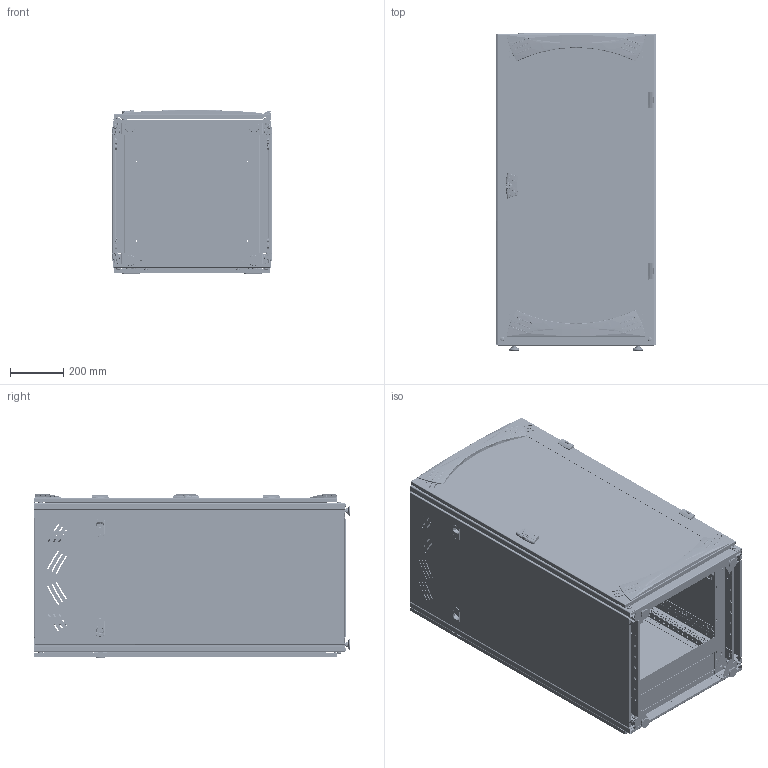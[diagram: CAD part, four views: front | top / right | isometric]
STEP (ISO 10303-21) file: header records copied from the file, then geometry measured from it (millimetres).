
FILE_DESCRIPTION((''),'2;1');
FILE_NAME('ENN3668AS_ASM','2007-09-27T',('ay11870'),('Schneider-Electric'),'PRO/ENGINEER BY PARAMETRIC TECHNOLOGY CORPORATION, 2005030','PRO/ENGINEER BY PARAMETRIC TECHNOLOGY CORPORATION, 2005030','');
FILE_SCHEMA(('CONFIG_CONTROL_DESIGN'));
Length unit declared in the file: millimetre
Products named in the file (38): ENN2684AS_66; ENN2715AS; ENN2683AS; ENN2684AS_66_ASM; ENN2682AS_24U; ENN2686AS_66; ENN2686AS_66_ASM; ENNA01562; ENN2692AS_600; ENN0379A_66; ENN2690AS_24U; ENN04430673; ENN2911AS; ENN2912AS; ENNA01571; ENN2808AS; ENN2833AS_2466_ASM; ENN2755AS; ENN2698AS_246; ENN04432992; ENN2698AS_246_ASM; ENN2807AS_246; ENN2807AS_246_ASM; ENN2948AS; LOQUET-1; ENN5120804607; ENN2717AS; ENN2720AS_24U6; ENN2720AS_24U6_ASM; ENN2723AS_24U; ENN2716AS; ENN2718AS; ENN5120803260; CAME; RONDELLE_EMKA; ENNA02208; ENN2722AS_ASM; ENN3668AS_ASM
Assembly tree (117 placements, depth 4):
  ENN3668AS_ASM
    ENN2833AS_2466_ASM
      ENN2684AS_66_ASM
        ENN2684AS_66
        ENN2715AS  x2
        ENN2683AS  x2
      ENN2682AS_24U  x4
      ENN2686AS_66_ASM
        ENN2686AS_66
        ENN2715AS  x2
        ENN2683AS  x2
      ENNA01562  x24
      ENN2692AS_600  x2
      ENN0379A_66  x2
      ENN2690AS_24U  x4
      ENN04430673  x12
      ENN2911AS  x6
      ENN2912AS  x6
      ENNA01571  x4
      ENN2808AS  x2
    ENN2755AS
    ENN2698AS_246_ASM  x2
      ENN2698AS_246
      ENN04432992
    ENN2807AS_246_ASM
      ENN2807AS_246
      ENN04432992
    ENN2948AS  x2
    LOQUET-1  x6
    ENN5120804607  x2
    ENN2717AS  x2
    ENN2720AS_24U6_ASM
      ENN2720AS_24U6
      ENN04432992
    ENN2723AS_24U
    ENN2716AS  x2
    ENN2722AS_ASM
      ENN2718AS
      ENN5120803260
      CAME
      ENN2912AS
      RONDELLE_EMKA
      ENNA02208  x2
    ENNA01571  x4
Bounding box: 605.3 x 1194.2 x 616.36 mm (x, y, z)
Surface area: 10243158.6 mm2 (no closed solid volume)
Topology: 0 solids, 134 shells, 21341 faces, 57511 edges, 35984 vertices
Faces by surface type: plane 9474, cylinder 8404, bspline 1558, torus 663, cone 530, sphere 426, revolution 274, extrusion 12
Entity records: 248309 total; most frequent: CARTESIAN_POINT 74245, ORIENTED_EDGE 37060, DIRECTION 34780, EDGE_CURVE 18538, AXIS2_PLACEMENT_3D 12031, VERTEX_POINT 11715, VECTOR 10651, LINE 10649
